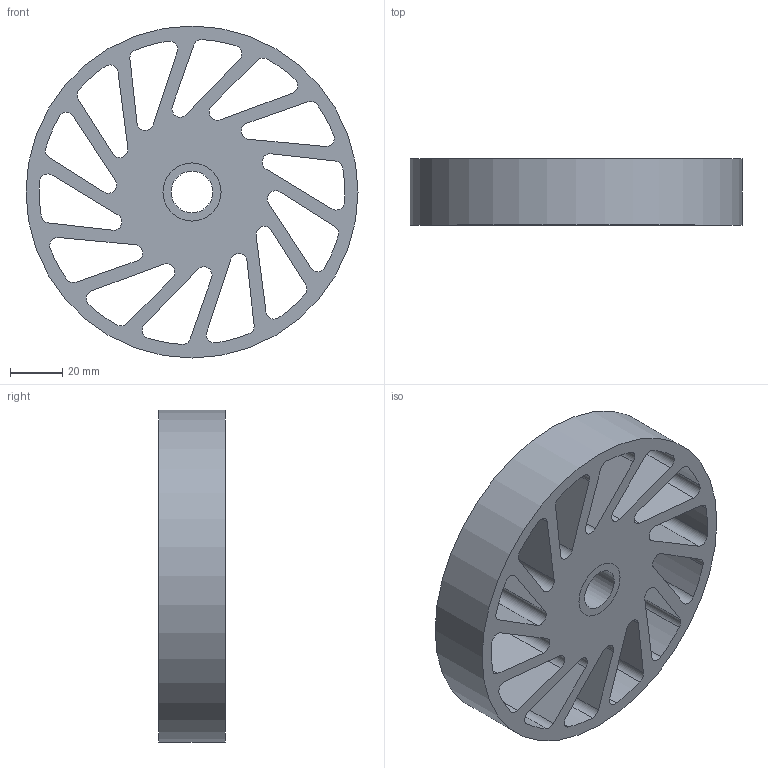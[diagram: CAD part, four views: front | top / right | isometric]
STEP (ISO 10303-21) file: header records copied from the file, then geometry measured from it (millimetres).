
FILE_DESCRIPTION(/* description */ (''),/* implementation_level */ '2;1');
FILE_NAME(/* name */ 'C:\Users\Owner\Desktop\Meridian Stuff\Oilite\NCWOB-460-XXX.stp',/* time_stamp */ '2023-05-22T17:08:09-05:00',/* author */ ('ASG'),/* organization */ ('Meridian Laboratory '),/* preprocessor_version */ 'ST-DEVELOPER v19',/* originating_system */ 'Autodesk Inventor 2023',/* authorisation */ '');
FILE_SCHEMA (('AUTOMOTIVE_DESIGN { 1 0 10303 214 3 1 1 }'));
Length unit declared in the file: inch
Products named in the file (1): NCWOB-440-XXX
Bounding box: 127 x 25.4 x 127 mm (x, y, z)
Volume: 175357.5 mm3; surface area: 59510.8 mm2
Topology: 2 solids, 2 shells, 92 faces, 264 edges, 176 vertices
Faces by surface type: cylinder 60, plane 32
Full cylindrical faces by diameter (mm): 15.926 x1, 22.225 x2, 127 x1
Entity records: 3285 total; most frequent: DIRECTION 570, CARTESIAN_POINT 533, ORIENTED_EDGE 528, EDGE_CURVE 264, AXIS2_PLACEMENT_3D 213, VERTEX_POINT 176, LINE 144, VECTOR 144
